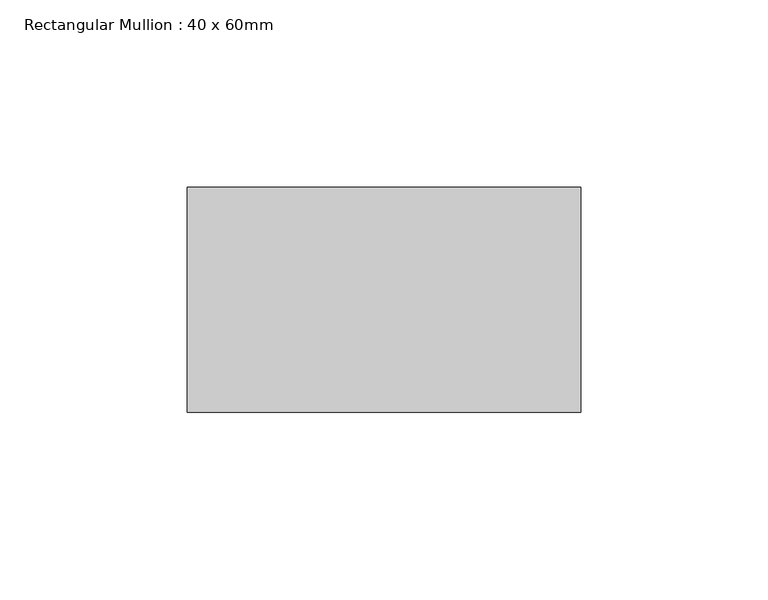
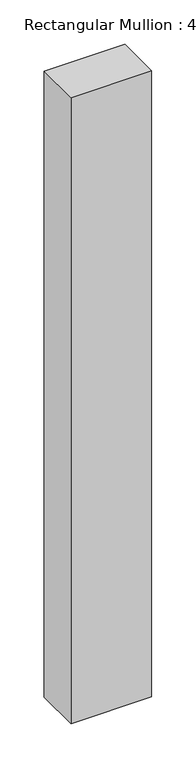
"""IFC4 building model written with IfcOpenShell, lengths in millimetres: member geometry, Rectangular Mullion : 40 x 60mm."""

import ifcopenshell
import ifcopenshell.guid

model = None  # the IFC model being written
_history = None  # IfcOwnerHistory: only IFC2X3 demands one
_inside = {}  # id of a spatial element -> (the spatial element, [elements in it])
_under = {}  # id of a project, library or spatial element -> (it, [spatial elements below it])
_declared = {}  # id of a project -> (the project, [libraries it declares])
_typed = {}  # id of a type object -> (the type object, [elements of that type])
_made_of = {}  # id of a material, layer set ... -> (it, [elements and type objects made of it])


def new_model(schema):
    """Start an empty IFC model of exactly this schema.

    Asked for "IFC4X3", IfcOpenShell would pick the latest addendum, in which some entities
    have other attributes; the version numbers below select the first issue.
    IFC2X3 requires an IfcOwnerHistory on every rooted entity: one is made here for all.
    """
    global model, _history
    if schema == "IFC4X3":
        model = ifcopenshell.file(schema_version=(4, 3, 0, 0))
    else:
        model = ifcopenshell.file(schema=schema)
    _inside.clear()
    _under.clear()
    _declared.clear()
    _typed.clear()
    _made_of.clear()
    _history = None
    if model.schema == "IFC2X3":
        org = make("IfcOrganization", Name="unknown")
        user = make(
            "IfcPersonAndOrganization",
            ThePerson=make("IfcPerson", FamilyName="unknown"),
            TheOrganization=org,
        )
        app = make(
            "IfcApplication",
            ApplicationDeveloper=org,
            Version="unknown",
            ApplicationFullName="unknown",
            ApplicationIdentifier="unknown",
        )
        _history = make(
            "IfcOwnerHistory",
            OwningUser=user,
            OwningApplication=app,
            ChangeAction="ADDED",
            CreationDate=0,
        )
    return model


def make(cls, **values):
    """One entity of the class cls with the attributes given. An attribute that is None is left unset."""
    return model.create_entity(
        cls, **{name: value for name, value in values.items() if value is not None}
    )


def rooted(cls, **values):
    """An entity with a GlobalId (a new one), such as an element, a storey or a relation."""
    return make(cls, GlobalId=ifcopenshell.guid.new(), OwnerHistory=_history, **values)


def si_unit(unit_type, name, prefix=None):
    """IfcSIUnit, for example si_unit("LENGTHUNIT", "METRE", prefix="MILLI")."""
    return make("IfcSIUnit", UnitType=unit_type, Prefix=prefix, Name=name)


def assignment(units):
    """IfcUnitAssignment: the units of a project."""
    return None if units is None else make("IfcUnitAssignment", Units=units)


def point(xyz):
    """IfcCartesianPoint."""
    return None if xyz is None else make("IfcCartesianPoint", Coordinates=xyz)


def direction(xyz):
    """IfcDirection."""
    return None if xyz is None else make("IfcDirection", DirectionRatios=xyz)


def frame(location, z_axis=None, x_axis=None):
    """IfcAxis2Placement3D, a coordinate frame: its origin and axes. An axis left out is left unset."""
    return make(
        "IfcAxis2Placement3D",
        Location=point(location),
        Axis=direction(z_axis),
        RefDirection=direction(x_axis),
    )


def origin():
    """The frame at (0, 0, 0) with its axes left unset."""
    return frame((0.0, 0.0, 0.0))


def place(relative_to, where):
    """IfcLocalPlacement: puts the frame where relative to a parent placement (None: the world)."""
    return make(
        "IfcLocalPlacement", PlacementRelTo=relative_to, RelativePlacement=where
    )


def context(
    kind, dimensions, precision=None, world=None, true_north=None, identifier=None
):
    """IfcGeometricRepresentationContext, for example the 3D "Model" context."""
    return make(
        "IfcGeometricRepresentationContext",
        ContextIdentifier=identifier,
        ContextType=kind,
        CoordinateSpaceDimension=dimensions,
        Precision=precision,
        WorldCoordinateSystem=world,
        TrueNorth=true_north,
    )


def project(units=None, contexts=None):
    """IfcProject with its units and contexts."""
    return rooted(
        "IfcProject",
        Name="project",
        RepresentationContexts=contexts,
        UnitsInContext=assignment(units),
    )


def spatial(cls, under=None, at=None, **own):
    """A site, building, storey or space (cls), placed at a placement, below another one or the project."""
    s = rooted(cls, ObjectPlacement=at, **own)
    if under is not None:
        _under.setdefault(under.id(), (under, []))[1].append(s)
    return s


def polyline(points):
    """IfcPolyline through the points."""
    return make("IfcPolyline", Points=[point(p) for p in points])


def outline(outer, holes=None, kind="AREA"):
    """IfcArbitraryClosedProfileDef: a profile drawn as a closed curve; with holes, ...WithVoids."""
    if holes is None:
        return make("IfcArbitraryClosedProfileDef", ProfileType=kind, OuterCurve=outer)
    return make(
        "IfcArbitraryProfileDefWithVoids",
        ProfileType=kind,
        OuterCurve=outer,
        InnerCurves=holes,
    )


def extrude(swept, where, along, depth):
    """IfcExtrudedAreaSolid: the profile swept, set in the frame where, extruded along a direction by depth."""
    return make(
        "IfcExtrudedAreaSolid",
        SweptArea=swept,
        Position=where,
        ExtrudedDirection=direction(along),
        Depth=depth,
    )


def shape(context_of_items, identifier, shape_type, items):
    """IfcShapeRepresentation: the items that make up one representation, for example the "Body"."""
    return make(
        "IfcShapeRepresentation",
        ContextOfItems=context_of_items,
        RepresentationIdentifier=identifier,
        RepresentationType=shape_type,
        Items=items,
    )


def source(mapping_origin, context_of_items, identifier, shape_type, items):
    """IfcRepresentationMap: a shape defined once, which mapped items show again and again."""
    return make(
        "IfcRepresentationMap",
        MappingOrigin=mapping_origin,
        MappedRepresentation=shape(context_of_items, identifier, shape_type, items),
    )


def transform(
    local_origin,
    x_axis=None,
    y_axis=None,
    z_axis=None,
    scale=None,
    scale2=None,
    scale3=None,
    uniform=True,
):
    """IfcCartesianTransformationOperator3D, or its non-uniform kind. x_axis, y_axis, z_axis: its Axis1, 2, 3."""
    if uniform:
        return make(
            "IfcCartesianTransformationOperator3D",
            Axis1=direction(x_axis),
            Axis2=direction(y_axis),
            LocalOrigin=point(local_origin),
            Scale=scale,
            Axis3=direction(z_axis),
        )
    return make(
        "IfcCartesianTransformationOperator3DnonUniform",
        Axis1=direction(x_axis),
        Axis2=direction(y_axis),
        LocalOrigin=point(local_origin),
        Scale=scale,
        Axis3=direction(z_axis),
        Scale2=scale2,
        Scale3=scale3,
    )


def mapped(mapping_source, mapping_target):
    """IfcMappedItem: shows the shape of a source again, moved by a transform."""
    return make(
        "IfcMappedItem", MappingSource=mapping_source, MappingTarget=mapping_target
    )


def made_of(thing, what):
    """Note that an element or type object is made of a material, layer set ...; save() writes the relation."""
    if what is not None:
        _made_of.setdefault(what.id(), (what, []))[1].append(thing)
    return thing


def element(
    cls,
    number,
    at=None,
    inside=None,
    cuts=None,
    type_object=None,
    material=None,
    context=None,
    identifier="Body",
    shape_type=None,
    held_by="IfcProductDefinitionShape",
    body=None,
    shapes=None,
    **own,
):
    """One element of the class cls, such as IfcWall. Its Tag is "e" and its number.

    at: its placement. inside: the storey or other place that contains it. cuts: it is an
    opening in that element (IfcRelVoidsElement). A single representation is given by context,
    identifier, shape_type and body (its items); several are given by shapes. held_by: the class
    of the entity that holds the representations. save() writes the other relations.
    """
    e = rooted(cls, Tag="e%d" % number, ObjectPlacement=at, **own)
    if body is not None:
        shapes = [shape(context, identifier, shape_type, body)]
    if shapes is not None:
        e.Representation = make(held_by, Representations=shapes)
    if inside is not None:
        _inside.setdefault(inside.id(), (inside, []))[1].append(e)
    if cuts is not None:
        rooted(
            "IfcRelVoidsElement", RelatingBuildingElement=cuts, RelatedOpeningElement=e
        )
    if type_object is not None:
        _typed.setdefault(type_object.id(), (type_object, []))[1].append(e)
    return made_of(e, material)


def aggregate(whole, parts):
    """IfcRelAggregates: a whole, such as a stair, and the parts it consists of."""
    return rooted("IfcRelAggregates", RelatingObject=whole, RelatedObjects=parts)


def save(model, path):
    """Write the relations noted so far, then the file.

    IfcRelAggregates (storeys below a building ...), IfcRelContainedInSpatialStructure (elements
    in a storey), IfcRelDefinesByType, IfcRelAssociatesMaterial and IfcRelDeclares: one each for
    every whole, place, type object, material and project.
    """
    for whole, parts in _under.values():
        aggregate(whole, parts)
    for where, things in _inside.values():
        rooted(
            "IfcRelContainedInSpatialStructure",
            RelatedElements=things,
            RelatingStructure=where,
        )
    for kind, things in _typed.values():
        rooted("IfcRelDefinesByType", RelatedObjects=things, RelatingType=kind)
    for what, things in _made_of.values():
        rooted("IfcRelAssociatesMaterial", RelatedObjects=things, RelatingMaterial=what)
    for by, libraries in _declared.values():
        rooted("IfcRelDeclares", RelatingContext=by, RelatedDefinitions=libraries)
    model.write(path)


def rectangular_mullion_40_x_60mm_c055d31a(model_context):
    return source(origin(), model_context, "Body", "SweptSolid", [
        extrude(outline(polyline([(0.0, -10.0), (0.0, -70.0), (-105.0, -70.0), (-105.0, -10.0), (0.0, -10.0)])), frame((0.0, 0.0, -860.0), z_axis=(0.0, 0.0, 1.0), x_axis=(1.0, 0.0, 0.0)), (0.0, 0.0, 1.0), 860.0),
    ])


if __name__ == "__main__":
    model = new_model("IFC4")
    model_context = context("Model", 3, world=origin())
    ifc_project = project(units=[si_unit("LENGTHUNIT", "METRE", prefix="MILLI")], contexts=[model_context])
    site = spatial("IfcSite", under=ifc_project)
    building = spatial("IfcBuilding", under=site)
    placement = place(None, origin())
    rectangular_mullion_40_x_60mm_shape = rectangular_mullion_40_x_60mm_c055d31a(model_context)
    element("IfcMember", 1, ObjectType="Rectangular Mullion : 40 x 60mm", at=placement, inside=building, context=model_context, shape_type="MappedRepresentation", body=[
        mapped(rectangular_mullion_40_x_60mm_shape, transform((0.0, 0.0, 0.0), x_axis=(1.0, 0.0, 0.0), y_axis=(0.0, 1.0, 0.0), z_axis=(0.0, 0.0, 1.0))),
    ])
    save(model, "model.ifc")
